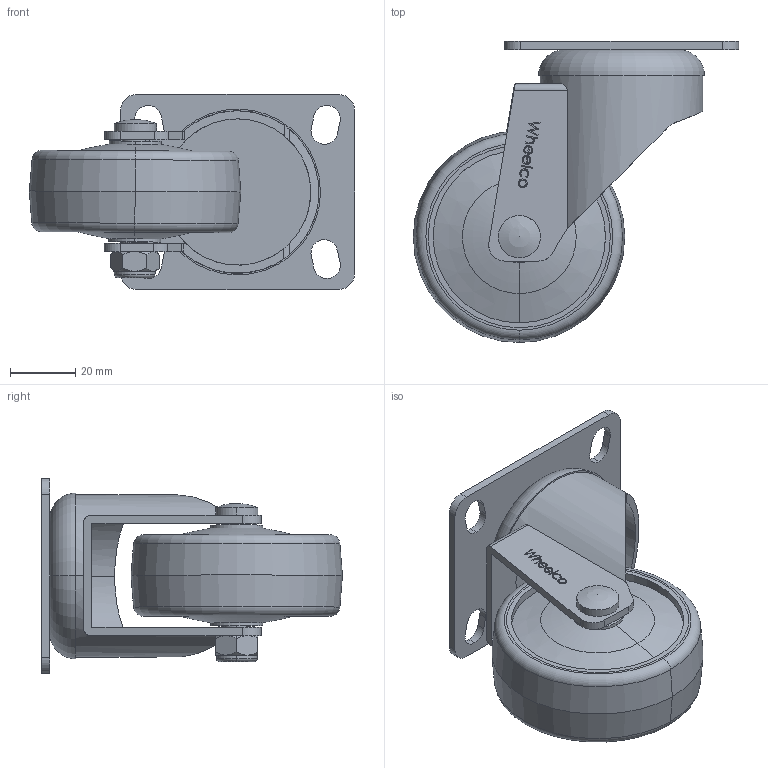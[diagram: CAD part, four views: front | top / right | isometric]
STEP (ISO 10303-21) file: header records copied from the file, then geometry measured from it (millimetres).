
FILE_DESCRIPTION (( 'STEP AP214' ), '1' );
FILE_NAME ('WLR65-P.step', '2024-01-15T01:48:34', ( '' ), ( '' ), 'SwSTEP 2.0', 'SolidWorks 2022', '' );
FILE_SCHEMA (( 'AUTOMOTIVE_DESIGN' ));
Length unit declared in the file: millimetre
Products named in the file (6): WLR65-P; WL65-P; WC-M8x48; WLR65; 72X60; M8Nyloc-WHITE
Assembly tree (5 placements, depth 2):
  WLR65-P
    72X60
    WL65-P
    WC-M8x48
    M8Nyloc-WHITE
    WLR65
Bounding box: 100 x 92.5 x 60 mm (x, y, z)
Volume: 118176.6 mm3; surface area: 39838.6 mm2
Topology: 5 solids, 5 shells, 287 faces, 747 edges, 489 vertices
Faces by surface type: plane 104, cylinder 93, bspline 53, cone 22, torus 14, sphere 1
Entity records: 14052 total; most frequent: CARTESIAN_POINT 7157, ORIENTED_EDGE 1488, DIRECTION 1187, EDGE_CURVE 744, VERTEX_POINT 487, AXIS2_PLACEMENT_3D 409, VECTOR 369, LINE 369
